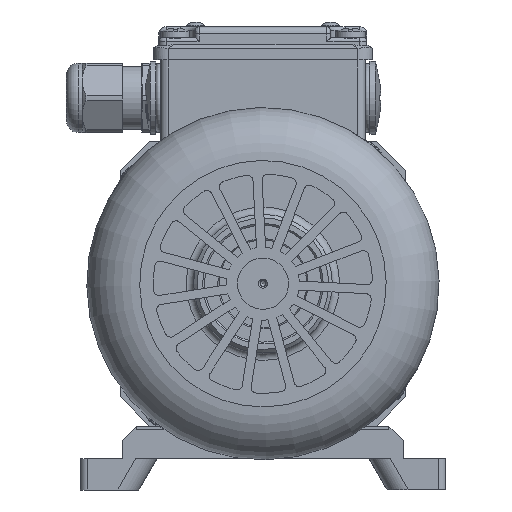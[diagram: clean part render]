
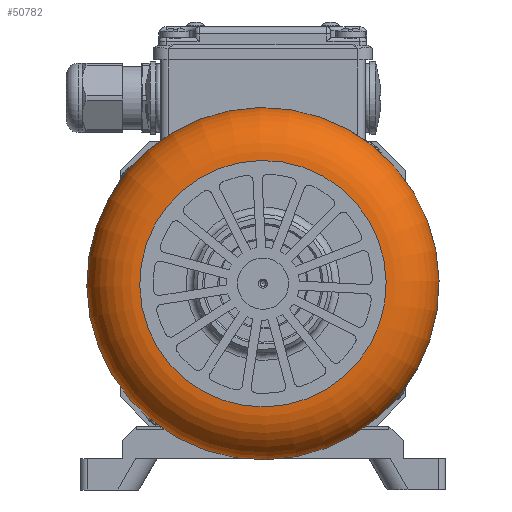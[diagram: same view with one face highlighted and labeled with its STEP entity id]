
A CAD part, left-side view. The second image highlights one B-rep face of the part: STEP entity #50782.
In plain terms, the highlighted toroidal (fillet/blend) face has major radius 33.75 mm and minor radius 14.5 mm.
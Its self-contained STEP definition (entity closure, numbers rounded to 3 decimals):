
#581=TOROIDAL_SURFACE('',#55120,33.75,14.5);
#11366=FACE_BOUND('',#16832,.T.);
#13685=FACE_OUTER_BOUND('',#16831,.T.);
#16831=EDGE_LOOP('',(#43568));
#16832=EDGE_LOOP('',(#43569));
#19029=CIRCLE('',#55121,33.75);
#19030=CIRCLE('',#55122,48.25);
#23616=VERTEX_POINT('',#93961);
#23617=VERTEX_POINT('',#93963);
#30491=EDGE_CURVE('',#23616,#23616,#19029,.T.);
#30492=EDGE_CURVE('',#23617,#23617,#19030,.T.);
#43568=ORIENTED_EDGE('',*,*,#30491,.T.);
#43569=ORIENTED_EDGE('',*,*,#30492,.T.);
#50782=ADVANCED_FACE('',(#13685,#11366),#581,.T.);
#55120=AXIS2_PLACEMENT_3D('',#93960,#65933,#65934);
#55121=AXIS2_PLACEMENT_3D('',#93962,#65935,#65936);
#55122=AXIS2_PLACEMENT_3D('',#93964,#65937,#65938);
#65933=DIRECTION('center_axis',(0.,0.,-1.));
#65934=DIRECTION('ref_axis',(-1.,0.,0.));
#65935=DIRECTION('center_axis',(0.,0.,-1.));
#65936=DIRECTION('ref_axis',(-1.,0.,0.));
#65937=DIRECTION('center_axis',(0.,0.,1.));
#65938=DIRECTION('ref_axis',(-1.,0.,0.));
#93960=CARTESIAN_POINT('Origin',(0.,0.,50.5));
#93961=CARTESIAN_POINT('',(33.75,0.,65.));
#93962=CARTESIAN_POINT('Origin',(0.,0.,65.));
#93963=CARTESIAN_POINT('',(48.25,0.,50.5));
#93964=CARTESIAN_POINT('Origin',(0.,0.,50.5));
